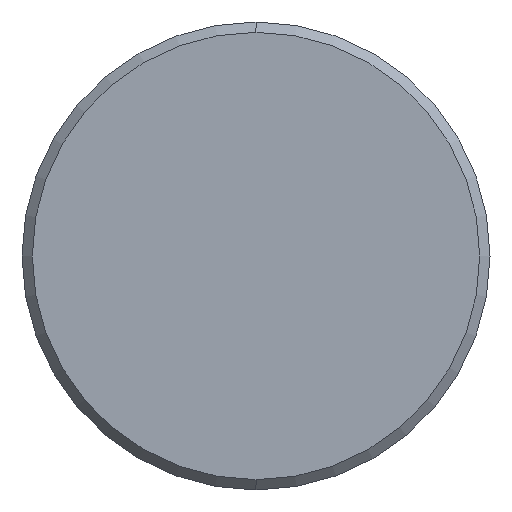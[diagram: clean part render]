
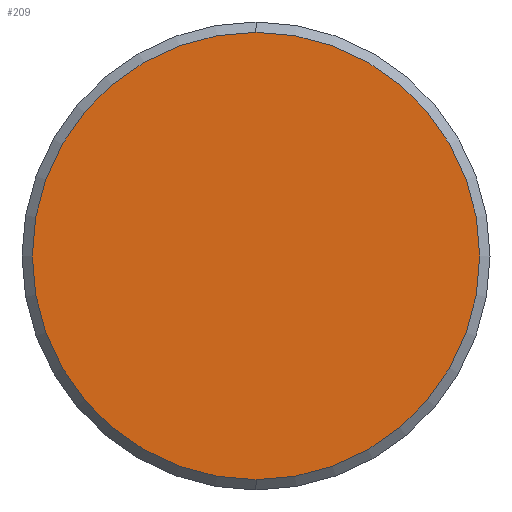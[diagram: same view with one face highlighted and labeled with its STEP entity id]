
A CAD part, left-side view. The second image highlights one B-rep face of the part: STEP entity #209.
In plain terms, the highlighted planar face has unit normal (-1, 0, 0).
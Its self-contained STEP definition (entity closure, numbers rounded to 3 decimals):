
#66 = CARTESIAN_POINT ( 'NONE',  ( 0., 0., 0. ) ) ;
#96 = ORIENTED_EDGE ( 'NONE', *, *, #341, .T. ) ;
#116 = CARTESIAN_POINT ( 'NONE',  ( 0., 0., -43.5 ) ) ;
#142 = CARTESIAN_POINT ( 'NONE',  ( 0., 0., 43.5 ) ) ;
#167 = DIRECTION ( 'NONE',  ( -1., 0., 0. ) ) ;
#193 = FACE_OUTER_BOUND ( 'NONE', #536, .T. ) ;
#205 = EDGE_CURVE ( 'NONE', #586, #248, #409, .T. ) ;
#209 = ADVANCED_FACE ( 'NONE', ( #193 ), #335, .F. ) ;
#215 = DIRECTION ( 'NONE',  ( 1., 0., 0. ) ) ;
#248 = VERTEX_POINT ( 'NONE', #116 ) ;
#270 = AXIS2_PLACEMENT_3D ( 'NONE', #539, #271, #584 ) ;
#271 = DIRECTION ( 'NONE',  ( -1., 0., 0. ) ) ;
#335 = PLANE ( 'NONE',  #519 ) ;
#341 = EDGE_CURVE ( 'NONE', #248, #586, #569, .T. ) ;
#409 = CIRCLE ( 'NONE', #422, 43.5 ) ;
#422 = AXIS2_PLACEMENT_3D ( 'NONE', #428, #167, #479 ) ;
#428 = CARTESIAN_POINT ( 'NONE',  ( 0., 0., 0. ) ) ;
#461 = ORIENTED_EDGE ( 'NONE', *, *, #205, .T. ) ;
#479 = DIRECTION ( 'NONE',  ( 0., 0., -1. ) ) ;
#519 = AXIS2_PLACEMENT_3D ( 'NONE', #66, #215, #524 ) ;
#524 = DIRECTION ( 'NONE',  ( 0., 0., -1. ) ) ;
#536 = EDGE_LOOP ( 'NONE', ( #96, #461 ) ) ;
#539 = CARTESIAN_POINT ( 'NONE',  ( 0., 0., 0. ) ) ;
#569 = CIRCLE ( 'NONE', #270, 43.5 ) ;
#584 = DIRECTION ( 'NONE',  ( 0., 0., -1. ) ) ;
#586 = VERTEX_POINT ( 'NONE', #142 ) ;
